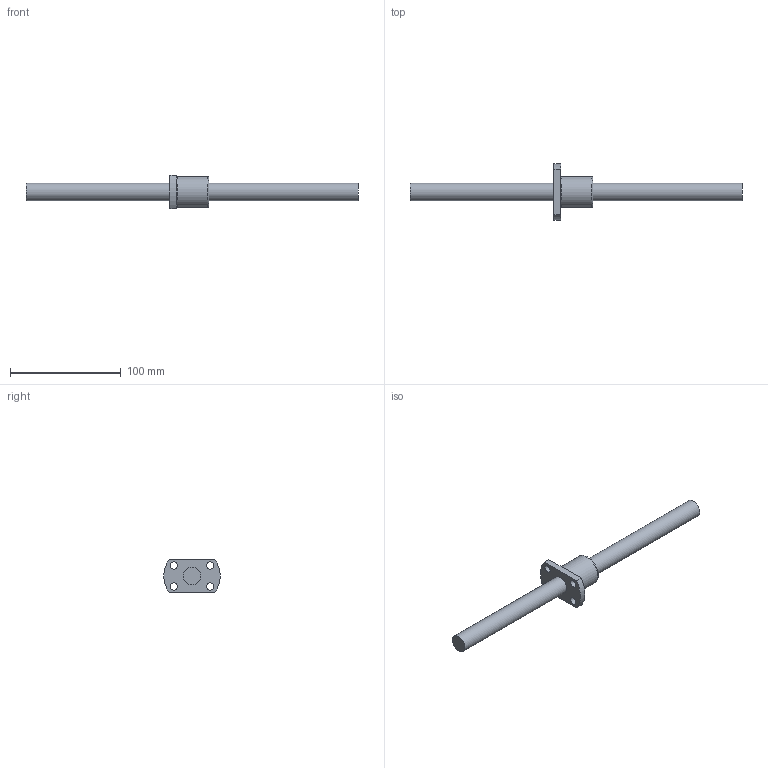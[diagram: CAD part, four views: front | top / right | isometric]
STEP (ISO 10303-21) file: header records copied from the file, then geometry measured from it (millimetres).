
FILE_DESCRIPTION((''),'2;1');
FILE_NAME('D:\製品 (図面)\カタログ用3D\ネジ関連\STEP形式\TMK\TMK16.stp','2010-06-02T15:22:48',('Tsuchiya'),(''),'Autodesk Inventor 10','Autodesk Inventor 10','');
FILE_SCHEMA(('AUTOMOTIVE_DESIGN { 1 0 10303 214 1 1 1 1 }'));
Length unit declared in the file: millimetre
Products named in the file (3): TMK16; TMK161; TMK162
Assembly tree (2 placements, depth 2):
  TMK16
    TMK161
    TMK162
Bounding box: 300 x 51 x 30 mm (x, y, z)
Volume: 78922.3 mm3; surface area: 23309.5 mm2
Topology: 2 solids, 2 shells, 18 faces, 41 edges, 28 vertices
Faces by surface type: plane 7, cylinder 5, bspline 5, torus 1
Full cylindrical faces by diameter (mm): 16 x2, 28 x1
Entity records: 628 total; most frequent: CARTESIAN_POINT 187, DIRECTION 84, ORIENTED_EDGE 56, AXIS2_PLACEMENT_3D 38, EDGE_LOOP 38, EDGE_CURVE 28, VERTEX_POINT 24, CIRCLE 20
